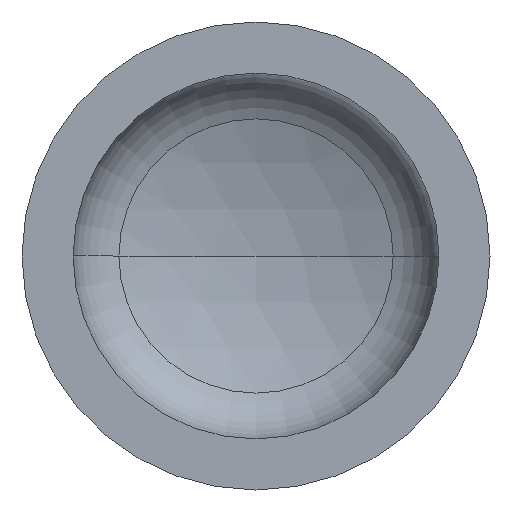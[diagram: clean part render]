
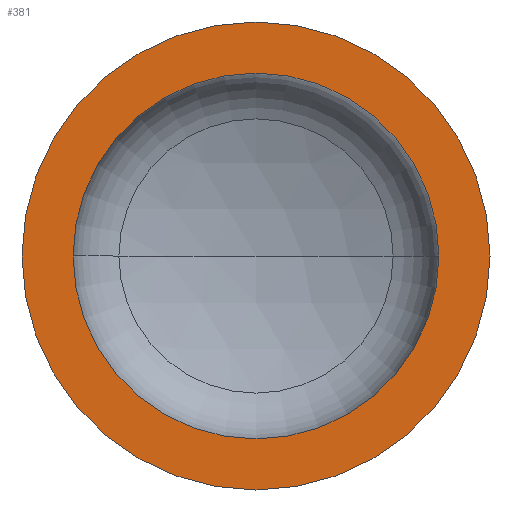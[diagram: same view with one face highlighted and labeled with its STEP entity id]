
A CAD part, front view. The second image highlights one B-rep face of the part: STEP entity #381.
In plain terms, the highlighted planar face has unit normal (0, -1, 0).
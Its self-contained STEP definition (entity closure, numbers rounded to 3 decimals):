
#4 = VERTEX_POINT ( 'NONE', #361 ) ;
#5 = AXIS2_PLACEMENT_3D ( 'NONE', #350, #148, #322 ) ;
#9 = ORIENTED_EDGE ( 'NONE', *, *, #158, .T. ) ;
#10 = VERTEX_POINT ( 'NONE', #290 ) ;
#15 = EDGE_LOOP ( 'NONE', ( #100, #9 ) ) ;
#20 = ORIENTED_EDGE ( 'NONE', *, *, #160, .F. ) ;
#26 = AXIS2_PLACEMENT_3D ( 'NONE', #305, #151, #260 ) ;
#40 = VERTEX_POINT ( 'NONE', #249 ) ;
#48 = EDGE_LOOP ( 'NONE', ( #20, #54 ) ) ;
#54 = ORIENTED_EDGE ( 'NONE', *, *, #362, .F. ) ;
#79 = AXIS2_PLACEMENT_3D ( 'NONE', #340, #227, #273 ) ;
#85 = VERTEX_POINT ( 'NONE', #295 ) ;
#100 = ORIENTED_EDGE ( 'NONE', *, *, #377, .T. ) ;
#135 = AXIS2_PLACEMENT_3D ( 'NONE', #302, #299, #297 ) ;
#137 = AXIS2_PLACEMENT_3D ( 'NONE', #312, #310, #318 ) ;
#148 = DIRECTION ( 'NONE',  ( 0., 1., 0. ) ) ;
#151 = DIRECTION ( 'NONE',  ( 0., -1., 0. ) ) ;
#158 = EDGE_CURVE ( 'NONE', #10, #85, #383, .T. ) ;
#160 = EDGE_CURVE ( 'NONE', #40, #4, #269, .T. ) ;
#172 = CIRCLE ( 'NONE', #79, 430. ) ;
#227 = DIRECTION ( 'NONE',  ( 0., -1., 0. ) ) ;
#249 = CARTESIAN_POINT ( 'NONE',  ( 430., 0., 0. ) ) ;
#260 = DIRECTION ( 'NONE',  ( 1., 0., 0. ) ) ;
#269 = CIRCLE ( 'NONE', #135, 430. ) ;
#273 = DIRECTION ( 'NONE',  ( 1., 0., 0. ) ) ;
#285 = FACE_BOUND ( 'NONE', #48, .T. ) ;
#290 = CARTESIAN_POINT ( 'NONE',  ( -550., 0., 0. ) ) ;
#295 = CARTESIAN_POINT ( 'NONE',  ( 550., 0., 0. ) ) ;
#297 = DIRECTION ( 'NONE',  ( 1., 0., 0. ) ) ;
#299 = DIRECTION ( 'NONE',  ( 0., -1., 0. ) ) ;
#302 = CARTESIAN_POINT ( 'NONE',  ( 0., 0., 0. ) ) ;
#305 = CARTESIAN_POINT ( 'NONE',  ( 0., 0., 0. ) ) ;
#310 = DIRECTION ( 'NONE',  ( 0., -1., 0. ) ) ;
#312 = CARTESIAN_POINT ( 'NONE',  ( 0., 0., 0. ) ) ;
#318 = DIRECTION ( 'NONE',  ( 1., 0., 0. ) ) ;
#322 = DIRECTION ( 'NONE',  ( -1., 0., 0. ) ) ;
#334 = FACE_OUTER_BOUND ( 'NONE', #15, .T. ) ;
#340 = CARTESIAN_POINT ( 'NONE',  ( 0., 0., 0. ) ) ;
#350 = CARTESIAN_POINT ( 'NONE',  ( -550., 0., 0. ) ) ;
#351 = CIRCLE ( 'NONE', #26, 550. ) ;
#361 = CARTESIAN_POINT ( 'NONE',  ( -430., 0., 0. ) ) ;
#362 = EDGE_CURVE ( 'NONE', #4, #40, #172, .T. ) ;
#371 = PLANE ( 'NONE',  #5 ) ;
#377 = EDGE_CURVE ( 'NONE', #85, #10, #351, .T. ) ;
#381 = ADVANCED_FACE ( 'NONE', ( #285, #334 ), #371, .F. ) ;
#383 = CIRCLE ( 'NONE', #137, 550. ) ;
